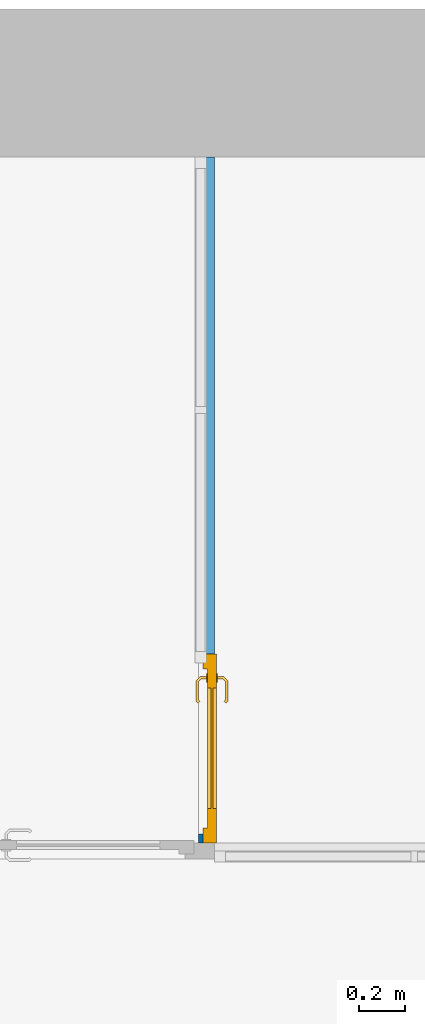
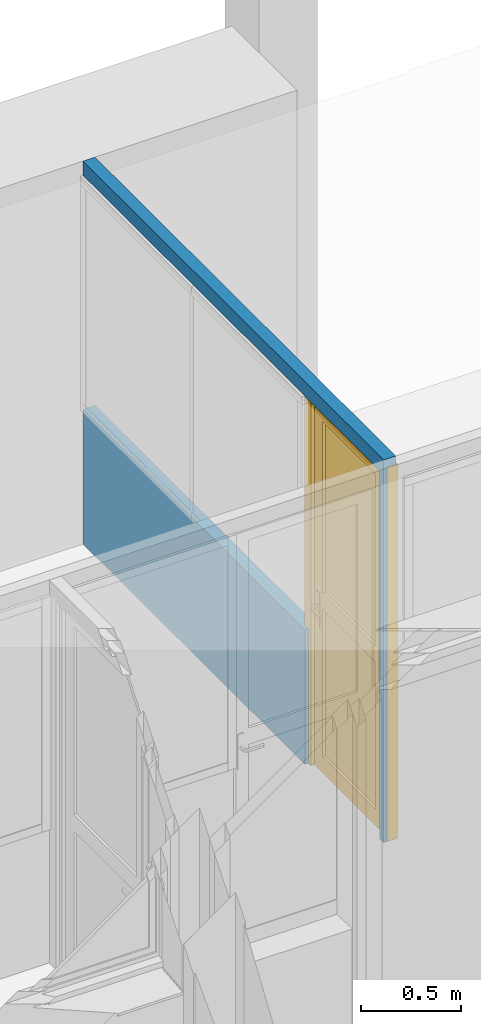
# One storey, part 12 of 19: 1 door, 1 wall, 2 openings.
"""IFC4 building model written with IfcOpenShell, lengths in metres."""

from ifc_helpers import new_model, entity, si_unit, converted_unit, derived_unit, direction, frame, origin, place, context, subcontext, project, spatial, indexed_curve, outline, extrude, polygons, source, transform, mapped, material, material_list, layer, layer_set, constituent, constituent_set, type_object, type_shapes, element, fill, save


model = new_model("IFC4")

# Units and contexts
model_context = context("Model", 3, precision=1e-05, world=origin(), true_north=direction((6.12303176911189e-17, 1.0)))
body_context = subcontext(model_context, "Body", "Model", "MODEL_VIEW")
ifc_project = project(units=[si_unit("LENGTHUNIT", "METRE"), si_unit("AREAUNIT", "SQUARE_METRE"), si_unit("VOLUMEUNIT", "CUBIC_METRE"), converted_unit("PLANEANGLEUNIT", "DEGREE", entity("IfcRatioMeasure", 0.0174532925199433), si_unit("PLANEANGLEUNIT", "RADIAN"), dimensions=[0, 0, 0, 0, 0, 0, 0]), si_unit("MASSUNIT", "GRAM", prefix="KILO"), derived_unit("MASSDENSITYUNIT", [(si_unit("MASSUNIT", "GRAM", prefix="KILO"), 1), (si_unit("LENGTHUNIT", "METRE"), -3)]), derived_unit("MOMENTOFINERTIAUNIT", [(si_unit("LENGTHUNIT", "METRE"), 4)]), si_unit("TIMEUNIT", "SECOND"), si_unit("FREQUENCYUNIT", "HERTZ"), si_unit("THERMODYNAMICTEMPERATUREUNIT", "DEGREE_CELSIUS"), derived_unit("THERMALTRANSMITTANCEUNIT", [(si_unit("MASSUNIT", "GRAM", prefix="KILO"), 1), (si_unit("THERMODYNAMICTEMPERATUREUNIT", "KELVIN"), -1), (si_unit("TIMEUNIT", "SECOND"), -3)]), derived_unit("VOLUMETRICFLOWRATEUNIT", [(si_unit("LENGTHUNIT", "METRE"), 3), (si_unit("TIMEUNIT", "SECOND"), -1)]), si_unit("ELECTRICCURRENTUNIT", "AMPERE"), si_unit("ELECTRICVOLTAGEUNIT", "VOLT"), si_unit("POWERUNIT", "WATT"), si_unit("FORCEUNIT", "NEWTON", prefix="KILO"), si_unit("ILLUMINANCEUNIT", "LUX"), si_unit("LUMINOUSFLUXUNIT", "LUMEN"), si_unit("LUMINOUSINTENSITYUNIT", "CANDELA"), derived_unit("USERDEFINED", [(si_unit("MASSUNIT", "GRAM", prefix="KILO"), -1), (si_unit("LENGTHUNIT", "METRE"), -2), (si_unit("TIMEUNIT", "SECOND"), 3), (si_unit("LUMINOUSFLUXUNIT", "LUMEN"), 1)]), derived_unit("LINEARVELOCITYUNIT", [(si_unit("LENGTHUNIT", "METRE"), 1), (si_unit("TIMEUNIT", "SECOND"), -1)]), si_unit("PRESSUREUNIT", "PASCAL"), derived_unit("USERDEFINED", [(si_unit("LENGTHUNIT", "METRE"), -2), (si_unit("MASSUNIT", "GRAM", prefix="KILO"), 1), (si_unit("TIMEUNIT", "SECOND"), -2)]), derived_unit("LINEARFORCEUNIT", [(si_unit("MASSUNIT", "GRAM", prefix="KILO"), 1), (si_unit("LENGTHUNIT", "METRE"), 1), (si_unit("TIMEUNIT", "SECOND"), -2), (si_unit("LENGTHUNIT", "METRE"), -1)]), derived_unit("PLANARFORCEUNIT", [(si_unit("MASSUNIT", "GRAM", prefix="KILO"), 1), (si_unit("LENGTHUNIT", "METRE"), 1), (si_unit("TIMEUNIT", "SECOND"), -2), (si_unit("LENGTHUNIT", "METRE"), -2)])], contexts=[model_context])

# Site, building, storey
site_placement = place(None, origin())
site = spatial("IfcSite", under=ifc_project, at=site_placement, Name="Default", CompositionType="ELEMENT")
building_placement = place(site_placement, origin())
building = spatial("IfcBuilding", under=site, at=building_placement, Name="HOTEL CONSULAIRE BOULOGNE SUR MER", CompositionType="ELEMENT")
storey_placement = place(building_placement, frame((0.0, 0.0, -4.01003075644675)))
storey = spatial("IfcBuildingStorey", under=building, at=storey_placement, Name="SS2", CompositionType="ELEMENT", Elevation=-4.01003075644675)

# Wall, openings, door
ifc_material_1 = material(Name="Mur par défaut", Category="Divers")
ifc_layer = layer(ifc_material_1, 0.07, Name="Mur par défaut", Category="Divers")
ifc_layer_set = layer_set([ifc_layer], Name="Mur de base:Générique - Int. 70 mm")
wall_type = type_object("IfcWallType", Name="Mur de base:Générique - Int. 70 mm", PredefinedType="NOTDEFINED", material=ifc_layer_set)
wall_placement = place(storey_placement, frame((-15.3371943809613, -13.47932416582, 0.0), z_axis=(0.0, 0.0, 1.0), x_axis=(0.0, 1.0, 0.0)))
wall = element("IfcWall", 1, at=wall_placement, inside=storey, type_object=wall_type, material=ifc_layer_set, Name="Mur de base:Générique - Int. 70 mm", ObjectType="Mur de base:Générique - Int. 70 mm", PredefinedType="NOTDEFINED", context=body_context, shape_type="Tessellation", body=[
    polygons([(3.01300000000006, 0.035000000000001, 0.0), (3.01300000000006, -0.0349999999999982, 0.0), (0.829999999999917, -0.0349999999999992, 0.0), (0.829999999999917, 0.0150000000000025, 0.0), (0.789999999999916, 0.0150000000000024, 0.0), (0.789999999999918, 0.035, 0.0), (3.01300000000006, -0.0349999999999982, 0.824265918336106), (0.829999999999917, -0.0349999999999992, 0.824265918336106), (0.789999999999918, 0.035, 0.824265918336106), (3.01300000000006, 0.035000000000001, 0.824265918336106), (0.789999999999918, 0.0150000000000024, 0.824265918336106), (0.829999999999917, 0.0150000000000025, 0.824265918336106)], [[[2, 3, 4, 5, 6, 1]], [[8, 3, 2, 7]], [[5, 4, 12, 11]], [[10, 1, 6, 9]], [[2, 1, 10, 7]], [[12, 8, 7, 10, 9, 11]], [[11, 9, 6, 5]], [[4, 3, 8, 12]]], closed=True),
    polygons([(3.01300000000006, -0.0349999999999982, 2.34113097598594), (0.0, -0.0349999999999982, 2.34113097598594), (0.0, -0.0349999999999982, 2.29000000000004), (0.829999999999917, -0.0349999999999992, 2.29000000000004), (0.829999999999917, -0.0349999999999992, 2.25353263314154), (3.01300000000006, -0.0349999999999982, 2.25353263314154), (0.0, 0.0350000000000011, 2.34113097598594), (3.01300000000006, 0.035000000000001, 2.34113097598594), (3.01300000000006, 0.035000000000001, 2.25353263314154), (0.789999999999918, 0.035, 2.25353263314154), (0.789999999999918, 0.035, 2.25000000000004), (0.0400000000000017, 0.0350000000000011, 2.25000000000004), (0.0400000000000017, 0.0350000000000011, 0.0), (0.0, 0.0350000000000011, 0.0), (0.829999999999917, 0.0150000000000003, 2.29000000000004), (0.829999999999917, 0.0150000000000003, 2.25353263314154), (0.0399999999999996, 0.0150000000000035, 2.25000000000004), (0.789999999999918, 0.0150000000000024, 2.25000000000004), (0.789999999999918, 0.0150000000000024, 2.25353263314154), (0.0, 0.0150000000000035, 2.29000000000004), (0.0, 0.0150000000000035, 0.0), (0.0399999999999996, 0.0150000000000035, 0.0)], [[[4, 5, 6, 1, 2, 3]], [[17, 18, 19, 16, 15, 20, 21, 22]], [[10, 11, 12, 13, 14, 7, 8, 9]], [[6, 9, 8, 1]], [[19, 18, 11, 10]], [[12, 17, 22, 13]], [[16, 5, 4, 15]], [[20, 3, 2, 7, 14, 21]], [[22, 21, 14, 13]], [[10, 9, 6, 5, 16, 19]], [[17, 12, 11, 18]], [[15, 4, 3, 20]], [[2, 1, 8, 7]]], closed=True),
])
opening_1_placement = place(wall_placement, frame((0.789999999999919, 0.1874, 0.824265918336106)))
element("IfcOpeningElement", 2, at=opening_1_placement, cuts=wall, Name="Mur de base:Générique - Int. 70 mm", ObjectType="Opening", PredefinedType="OPENING", context=body_context, shape_type="SweptSolid", body=[
    extrude(outline(indexed_curve([(-0.714633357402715, -1.11150000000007), (0.714633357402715, -1.11150000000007), (0.714633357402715, 1.11150000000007), (-0.714633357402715, 1.11150000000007), (-0.714633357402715, -1.11150000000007)], self_intersect=False)), frame((1.11150000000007, -0.374799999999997, 0.714633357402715), z_axis=(0.0, 1.0, 0.0), x_axis=(0.0, 0.0, 1.0)), (0.0, 0.0, 1.0), 0.374799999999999),
])
opening_2_placement = place(wall_placement, frame((0.0, 0.335000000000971, 0.0), z_axis=(0.0, 0.0, 1.0), x_axis=(0.0, -1.0, 0.0)))
opening_2 = element("IfcOpeningElement", 3, at=opening_2_placement, cuts=wall, Name="Mur de base:Générique - Int. 70 mm", ObjectType="Opening", PredefinedType="OPENING", context=body_context, shape_type="Tessellation", body=[
    polygons([(0.67000000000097, 0.0399999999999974, 2.25000000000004), (0.67000000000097, 0.789999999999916, 2.25000000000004), (0.370000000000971, 0.789999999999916, 2.25000000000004), (0.370000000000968, 0.0399999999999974, 2.25000000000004), (0.67000000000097, 0.789999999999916, 0.0), (0.370000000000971, 0.789999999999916, 0.0), (0.67000000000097, 0.0399999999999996, 0.0), (0.370000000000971, 0.0399999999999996, 0.0), (0.0, 0.789999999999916, 2.25000000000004), (0.0, 0.0399999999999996, 2.25000000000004), (0.320000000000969, 0.0399999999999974, 2.25000000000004), (0.320000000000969, 0.789999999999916, 2.25000000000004), (0.0, 0.0399999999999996, 0.0), (0.0, 0.789999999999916, 0.0), (0.320000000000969, 0.789999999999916, 0.0), (0.320000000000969, 0.829999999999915, 0.0), (0.370000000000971, 0.829999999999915, 0.0), (0.370000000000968, -2.16573425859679e-15, 0.0), (0.320000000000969, -2.16573425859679e-15, 0.0), (0.320000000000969, 0.0399999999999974, 0.0), (0.370000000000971, 0.829999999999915, 2.29000000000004), (0.370000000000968, -2.16573425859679e-15, 2.29000000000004), (0.320000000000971, 0.829999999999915, 2.29000000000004), (0.320000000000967, -2.16573425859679e-15, 2.29000000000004)], [[[2, 3, 4, 1]], [[9, 10, 11, 12]], [[22, 21, 23, 24]], [[5, 6, 3, 2]], [[14, 9, 12, 15]], [[21, 17, 16, 23]], [[8, 7, 1, 4]], [[20, 11, 10, 13]], [[18, 22, 24, 19]], [[13, 14, 15, 16, 17, 6, 5, 7, 8, 18, 19, 20]], [[14, 13, 10, 9]], [[12, 11, 20, 19, 24, 23, 16, 15]], [[7, 5, 2, 1]], [[4, 3, 6, 17, 21, 22, 18, 8]]], closed=True),
])
ifc_material_2 = material(Name="PVC - Blanc", Category="Plastique")
ifc_constituent_1 = constituent(ifc_material_2, Name="PVC - Blanc", Category="Matériaux")
ifc_material_3 = material(Name="Verre", Category="Verre")
ifc_constituent_2 = constituent(ifc_material_3, Name="Verre", Category="Matériaux")
ifc_constituent_set = constituent_set(constituents=[ifc_constituent_1, ifc_constituent_2], Name="MaterialConstituentSet")
ifc_material_list = material_list([ifc_material_2, ifc_material_2, ifc_material_2])
door_type = type_object("IfcDoorType", Name="PVC Panneau Vitré :0.73m x 2.24", OperationType="SINGLE_SWING_LEFT", PredefinedType="DOOR", material=ifc_material_list)
shared_shape = source(origin(), body_context, "Body", "Tessellation", [
    polygons([(0.71899999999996, -0.265, 0.993000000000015), (0.722974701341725, -0.265, 0.992219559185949), (0.727025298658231, -0.265, 0.992219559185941), (0.730999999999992, -0.265, 0.99299999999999), (0.730999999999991, -0.265, 1.00699999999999), (0.727025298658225, -0.265, 1.00778044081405), (0.722974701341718, -0.265, 1.00778044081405), (0.718999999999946, -0.265, 1.00699999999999), (0.718999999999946, -0.242514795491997, 1.00699999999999), (0.718999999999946, -0.242514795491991, 0.993000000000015), (0.730999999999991, -0.237544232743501, 1.00699999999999), (0.727025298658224, -0.239190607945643, 1.00778044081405), (0.722974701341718, -0.240868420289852, 1.00778044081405), (0.730999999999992, -0.237544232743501, 0.99299999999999), (0.722974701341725, -0.24086842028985, 0.992219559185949), (0.727025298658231, -0.23919060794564, 0.992219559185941), (0.707514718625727, -0.231029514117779, 1.00699999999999), (0.707514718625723, -0.231029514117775, 0.993000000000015), (0.712485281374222, -0.219029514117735, 1.00699999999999), (0.71083890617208, -0.223004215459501, 1.00778044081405), (0.709161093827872, -0.227054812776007, 1.00778044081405), (0.712485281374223, -0.219029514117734, 0.99299999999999), (0.709161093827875, -0.227054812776, 0.992219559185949), (0.710838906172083, -0.223004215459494, 0.992219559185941), (0.627439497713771, -0.231029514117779, 1.00699999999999), (0.627439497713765, -0.231029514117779, 0.993000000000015), (0.622468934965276, -0.219029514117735, 1.00699999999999), (0.624115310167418, -0.223004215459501, 1.00778044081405), (0.625793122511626, -0.227054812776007, 1.00778044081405), (0.662399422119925, -0.219029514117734, 1.00699999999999), (0.667477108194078, -0.224875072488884, 1.00787811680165), (0.667477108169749, -0.231029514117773, 1.00699999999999), (0.622468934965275, -0.219029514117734, 0.99299999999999), (0.625793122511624, -0.227054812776, 0.992219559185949), (0.624115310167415, -0.223004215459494, 0.992219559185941), (0.672554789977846, -0.219029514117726, 0.992999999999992), (0.66747710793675, -0.224875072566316, 0.992121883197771), (0.667477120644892, -0.231029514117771, 0.993000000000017), (0.622125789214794, -0.236343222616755, 0.993000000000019), (0.622125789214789, -0.236343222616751, 1.00699999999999), (0.619315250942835, -0.233532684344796, 1.00778044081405), (0.616451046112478, -0.230668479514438, 1.00778044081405), (0.613640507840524, -0.227857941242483, 1.00699999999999), (0.613640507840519, -0.227857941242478, 0.992999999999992), (0.616451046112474, -0.230668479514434, 0.992219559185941), (0.619315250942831, -0.233532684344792, 0.992219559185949)], [[[2, 3, 4, 5, 6, 7, 8, 1]], [[18, 17, 32, 25, 26, 38]], [[9, 10, 1, 8]], [[7, 13, 9, 8]], [[7, 6, 12, 20, 21, 13]], [[29, 28, 42, 41]], [[5, 11, 12, 6]], [[11, 5, 4, 14]], [[4, 3, 16, 14]], [[3, 2, 15, 23, 24, 16]], [[35, 34, 46, 45]], [[2, 1, 10, 15]], [[17, 18, 10, 9]], [[41, 42, 43, 44, 45, 46, 39, 40]], [[9, 13, 21, 17]], [[11, 19, 20, 12]], [[22, 19, 11, 14]], [[14, 16, 24, 22]], [[15, 10, 18, 23]], [[31, 32, 21]], [[30, 27, 28]], [[30, 20, 19]], [[31, 20, 30]], [[29, 32, 31]], [[31, 28, 29]], [[17, 21, 32]], [[32, 29, 25]], [[20, 31, 21]], [[28, 31, 30]], [[19, 22, 36, 33, 27, 30]], [[24, 37, 36]], [[35, 36, 37]], [[36, 22, 24]], [[36, 35, 33]], [[23, 38, 37]], [[37, 24, 23]], [[37, 38, 34]], [[38, 23, 18]], [[26, 34, 38]], [[35, 37, 34]], [[40, 39, 26, 25]], [[25, 29, 41, 40]], [[28, 27, 43, 42]], [[44, 43, 27, 33]], [[35, 45, 44, 33]], [[26, 39, 46, 34]]], closed=True),
    polygons([(0.730999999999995, -0.315, 1.00699999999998), (0.731000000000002, -0.315, 0.992999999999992), (0.727025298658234, -0.315, 0.992219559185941), (0.722974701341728, -0.315, 0.992219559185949), (0.718999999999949, -0.315, 0.993000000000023), (0.718999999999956, -0.315, 1.00699999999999), (0.722974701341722, -0.315, 1.00778044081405), (0.727025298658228, -0.315, 1.00778044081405), (0.718999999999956, -0.337680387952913, 1.00699999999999), (0.722974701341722, -0.339326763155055, 1.00778044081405), (0.727025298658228, -0.341004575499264, 1.00778044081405), (0.730999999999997, -0.342650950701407, 1.00699999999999), (0.718999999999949, -0.33768038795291, 0.993000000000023), (0.731000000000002, -0.342650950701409, 0.992999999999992), (0.727025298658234, -0.341004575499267, 0.992219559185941), (0.722974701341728, -0.339326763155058, 0.992219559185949), (0.707652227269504, -0.349028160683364, 1.00699999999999), (0.709298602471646, -0.35300286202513, 1.00778044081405), (0.710976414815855, -0.357053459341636, 1.00778044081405), (0.712622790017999, -0.361028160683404, 1.00699999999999), (0.707652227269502, -0.349028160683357, 0.993000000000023), (0.712622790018, -0.361028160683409, 0.992999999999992), (0.710976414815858, -0.357053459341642, 0.992219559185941), (0.709298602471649, -0.353002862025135, 0.992219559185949), (0.627466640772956, -0.349028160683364, 1.00699999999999), (0.625820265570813, -0.35300286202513, 1.00778044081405), (0.624142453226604, -0.357053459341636, 1.00778044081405), (0.622496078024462, -0.361028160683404, 1.00699999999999), (0.672692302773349, -0.361028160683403, 1.00699999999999), (0.66755943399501, -0.355182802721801, 1.00787811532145), (0.667559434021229, -0.34902816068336, 1.00699999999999), (0.627466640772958, -0.349028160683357, 0.993000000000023), (0.622496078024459, -0.361028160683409, 0.992999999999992), (0.624142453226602, -0.357053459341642, 0.992219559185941), (0.625820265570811, -0.353002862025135, 0.992219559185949), (0.662426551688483, -0.361028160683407, 0.992999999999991), (0.667559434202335, -0.35518280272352, 0.992121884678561), (0.667559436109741, -0.349028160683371, 0.993000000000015), (0.61366765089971, -0.352199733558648, 1.00699999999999), (0.616478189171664, -0.349389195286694, 1.00778044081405), (0.619342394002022, -0.346524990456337, 1.00778044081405), (0.622152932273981, -0.343714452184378, 1.00699999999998), (0.622152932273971, -0.343714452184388, 0.993000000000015), (0.619342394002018, -0.346524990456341, 0.992219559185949), (0.61647818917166, -0.349389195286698, 0.992219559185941), (0.613667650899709, -0.352199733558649, 0.992999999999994)], [[[7, 8, 1, 2, 3, 4, 5, 6]], [[17, 21, 38, 32, 25, 31]], [[1, 8, 11, 12]], [[8, 7, 10, 18, 19, 11]], [[27, 26, 41, 40]], [[7, 6, 9, 10]], [[13, 9, 6, 5]], [[4, 16, 13, 5]], [[4, 3, 15, 23, 24, 16]], [[35, 34, 45, 44]], [[2, 14, 15, 3]], [[12, 14, 2, 1]], [[12, 11, 19, 20]], [[10, 9, 17, 18]], [[21, 17, 9, 13]], [[43, 44, 45, 46, 39, 40, 41, 42]], [[13, 16, 24, 21]], [[15, 14, 22, 23]], [[20, 22, 14, 12]], [[19, 30, 29]], [[27, 29, 30]], [[29, 20, 19]], [[29, 27, 28]], [[18, 31, 30]], [[30, 19, 18]], [[30, 31, 26]], [[31, 18, 17]], [[25, 26, 31]], [[27, 30, 26]], [[37, 38, 24]], [[36, 33, 34]], [[36, 23, 22]], [[37, 23, 36]], [[35, 38, 37]], [[37, 34, 35]], [[21, 24, 38]], [[38, 35, 32]], [[23, 37, 24]], [[34, 37, 36]], [[22, 20, 29, 28, 33, 36]], [[27, 40, 39, 28]], [[25, 42, 41, 26]], [[43, 42, 25, 32]], [[32, 35, 44, 43]], [[34, 33, 46, 45]], [[39, 46, 33, 28]]], closed=True),
    polygons([(0.704999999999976, -0.27, 1.08), (0.704999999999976, -0.27, 0.870000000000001), (0.714647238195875, -0.27, 0.866003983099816), (0.724999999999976, -0.27, 0.864641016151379), (0.735352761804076, -0.27, 0.866003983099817), (0.744999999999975, -0.27, 0.870000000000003), (0.744999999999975, -0.27, 1.08), (0.735352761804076, -0.27, 1.08399601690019), (0.724999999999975, -0.27, 1.08535898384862), (0.714647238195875, -0.27, 1.08399601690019), (0.704999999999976, -0.265, 1.08), (0.714647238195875, -0.265, 1.08399601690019), (0.724999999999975, -0.265, 1.08535898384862), (0.735352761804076, -0.265, 1.08399601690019), (0.744999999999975, -0.265, 1.08), (0.744999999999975, -0.265, 0.870000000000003), (0.735352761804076, -0.265, 0.866003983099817), (0.724999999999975, -0.265, 0.864641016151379), (0.714647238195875, -0.265, 0.866003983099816), (0.704999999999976, -0.265, 0.870000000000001)], [[[4, 5, 6, 7, 8, 9, 10, 1, 2, 3]], [[13, 14, 15, 16, 17, 18, 19, 20, 11, 12]], [[10, 12, 11, 1]], [[9, 13, 12, 10]], [[8, 14, 13, 9]], [[8, 7, 15, 14]], [[15, 7, 6, 16]], [[5, 17, 16, 6]], [[4, 18, 17, 5]], [[3, 19, 18, 4]], [[3, 2, 20, 19]], [[20, 2, 1, 11]]], closed=True),
    polygons([(0.744999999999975, -0.315, 0.870000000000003), (0.744999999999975, -0.315, 1.08), (0.735352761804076, -0.315, 1.08399601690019), (0.724999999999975, -0.315, 1.08535898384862), (0.714647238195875, -0.315, 1.08399601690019), (0.704999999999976, -0.315, 1.08), (0.704999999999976, -0.315, 0.870000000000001), (0.714647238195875, -0.315, 0.866003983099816), (0.724999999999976, -0.315, 0.864641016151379), (0.735352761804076, -0.315, 0.866003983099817), (0.744999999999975, -0.31, 0.870000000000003), (0.735352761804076, -0.31, 0.866003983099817), (0.724999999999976, -0.31, 0.864641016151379), (0.714647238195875, -0.31, 0.866003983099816), (0.704999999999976, -0.31, 0.870000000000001), (0.704999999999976, -0.31, 1.08), (0.714647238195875, -0.31, 1.08399601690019), (0.724999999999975, -0.31, 1.08535898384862), (0.735352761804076, -0.31, 1.08399601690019), (0.744999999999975, -0.31, 1.08)], [[[9, 10, 1, 2, 3, 4, 5, 6, 7, 8]], [[20, 11, 12, 13, 14, 15, 16, 17, 18, 19]], [[10, 12, 11, 1]], [[9, 13, 12, 10]], [[8, 14, 13, 9]], [[8, 7, 15, 14]], [[15, 7, 6, 16]], [[5, 17, 16, 6]], [[4, 18, 17, 5]], [[3, 19, 18, 4]], [[3, 2, 20, 19]], [[20, 2, 1, 11]]], closed=True),
    polygons([(0.829999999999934, -0.31, 0.0), (0.779999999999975, -0.31, 0.0), (0.779999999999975, -0.27, 0.0), (0.764999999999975, -0.27, 0.0), (0.764999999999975, -0.25, 0.0), (0.829999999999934, -0.25, 0.0), (0.829999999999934, -0.25, 2.29000000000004), (0.829999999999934, -0.31, 2.29000000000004), (0.764999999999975, -0.25, 2.22500000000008), (0.0649999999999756, -0.25, 2.22500000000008), (0.0649999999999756, -0.25, -7.046294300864e-25), (1.66490821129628e-14, -0.25, 4.08683867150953e-24), (1.66490821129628e-14, -0.25, 2.29000000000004), (0.764999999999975, -0.27, 2.22500000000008), (0.779999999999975, -0.27, 2.24000000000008), (0.0499999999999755, -0.27, 2.24000000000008), (0.0499999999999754, -0.27, -3.44475164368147e-25), (0.0649999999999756, -0.27, -5.07648659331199e-24), (0.0649999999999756, -0.27, 2.22500000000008), (0.779999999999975, -0.31, 2.24000000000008), (1.66490821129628e-14, -0.31, 2.29000000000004), (1.67844405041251e-14, -0.31, 4.03399441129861e-24), (0.0499999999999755, -0.31, 4.03399441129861e-24), (0.0499999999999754, -0.31, 2.24000000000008)], [[[6, 1, 2, 3, 4, 5]], [[17, 23, 22, 12, 11, 18]], [[19, 10, 9, 14]], [[16, 15, 20, 24]], [[7, 8, 1, 6]], [[11, 10, 19, 18]], [[17, 16, 24, 23]], [[9, 10, 11, 12, 13, 7, 6, 5]], [[9, 5, 4, 14]], [[15, 3, 2, 20]], [[12, 22, 21, 13]], [[19, 14, 4, 3, 15, 16, 17, 18]], [[24, 20, 2, 1, 8, 21, 22, 23]], [[21, 8, 7, 13]]], closed=True),
    polygons([(0.679999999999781, -0.284999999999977, 2.15000000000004), (0.679999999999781, -0.284999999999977, 1.1), (0.149999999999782, -0.284999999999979, 1.1), (0.149999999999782, -0.284999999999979, 2.15000000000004), (0.679999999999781, -0.294999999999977, 2.15000000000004), (0.149999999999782, -0.294999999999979, 2.15000000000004), (0.149999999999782, -0.294999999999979, 1.1), (0.679999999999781, -0.294999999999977, 1.1)], [[[4, 1, 2, 3]], [[7, 8, 5, 6]], [[1, 5, 8, 2]], [[2, 8, 7, 3]], [[3, 7, 6, 4]], [[4, 6, 5, 1]]], closed=True),
    polygons([(0.149999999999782, -0.294999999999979, 1.0), (0.149999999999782, -0.294999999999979, 0.0999999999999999), (0.679999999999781, -0.294999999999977, 0.0999999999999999), (0.679999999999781, -0.294999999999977, 1.0), (0.149999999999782, -0.284999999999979, 1.0), (0.679999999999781, -0.284999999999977, 1.0), (0.679999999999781, -0.284999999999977, 0.0999999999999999), (0.149999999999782, -0.284999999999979, 0.0999999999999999)], [[[2, 3, 4, 1]], [[5, 6, 7, 8]], [[5, 1, 4, 6]], [[6, 4, 3, 7]], [[7, 3, 2, 8]], [[8, 2, 1, 5]]], closed=True),
    polygons([(0.779999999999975, -0.31, 2.24000000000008), (0.0499999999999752, -0.31, 2.24000000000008), (0.0499999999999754, -0.31, -2.70716777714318e-16), (0.779999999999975, -0.31, -2.70716782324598e-16), (0.149999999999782, -0.31, 2.15000000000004), (0.679999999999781, -0.31, 2.15000000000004), (0.679999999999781, -0.31, 1.1), (0.149999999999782, -0.31, 1.1), (0.149999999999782, -0.31, 0.0999999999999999), (0.149999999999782, -0.31, 1.0), (0.679999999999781, -0.31, 1.0), (0.679999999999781, -0.31, 0.0999999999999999), (0.779999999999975, -0.27, 2.24000000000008), (0.779999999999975, -0.27, -1.40985656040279e-16), (0.0499999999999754, -0.27, -2.70716781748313e-16), (0.0499999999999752, -0.27, 2.24000000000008), (0.149999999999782, -0.27, 2.15000000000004), (0.149999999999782, -0.27, 1.1), (0.679999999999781, -0.27, 1.1), (0.679999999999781, -0.27, 2.15000000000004), (0.149999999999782, -0.27, 0.0999999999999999), (0.679999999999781, -0.27, 0.0999999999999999), (0.679999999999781, -0.27, 1.0), (0.149999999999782, -0.27, 1.0)], [[[1, 2, 3, 4], [11, 12, 9, 10], [6, 7, 8, 5]], [[14, 15, 16, 13], [19, 20, 17, 18], [22, 23, 24, 21]], [[14, 13, 1, 4]], [[17, 5, 8, 18]], [[24, 10, 9, 21]], [[14, 4, 3, 15]], [[20, 6, 5, 17]], [[23, 11, 10, 24]], [[16, 15, 3, 2]], [[19, 7, 6, 20]], [[22, 12, 11, 23]], [[13, 16, 2, 1]], [[18, 8, 7, 19]], [[21, 9, 12, 22]]], closed=True),
])
type_shapes(door_type, [shared_shape])
door_placement = place(opening_2_placement, frame((0.0700000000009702, 0.0, 0.0), z_axis=(0.0, 0.0, 1.0), x_axis=(0.0, 1.0, 0.0)))
door = element("IfcDoor", 4, at=door_placement, inside=storey, type_object=door_type, material=ifc_constituent_set, Name="PVC Panneau Vitré :0.73m x 2.24", ObjectType="PVC Panneau Vitré :0.73m x 2.24", OperationType="SINGLE_SWING_LEFT", OverallHeight=2.29000000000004, OverallWidth=0.829999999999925, PredefinedType="DOOR", context=body_context, shape_type="MappedRepresentation", body=[
    mapped(shared_shape, transform((0.0, 0.0, 0.0), scale=1.0)),
])
fill(opening_2, door)

save(model, "model.ifc")
